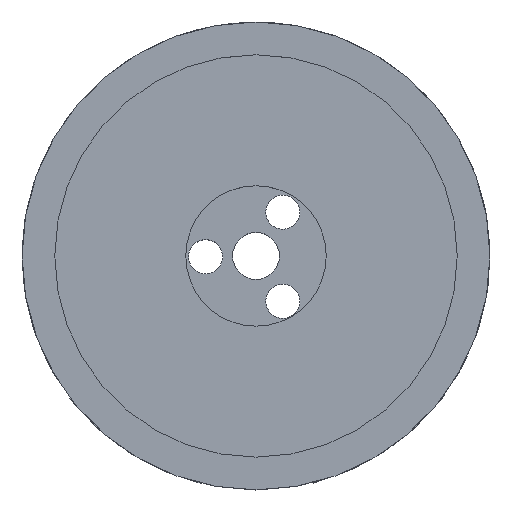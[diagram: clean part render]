
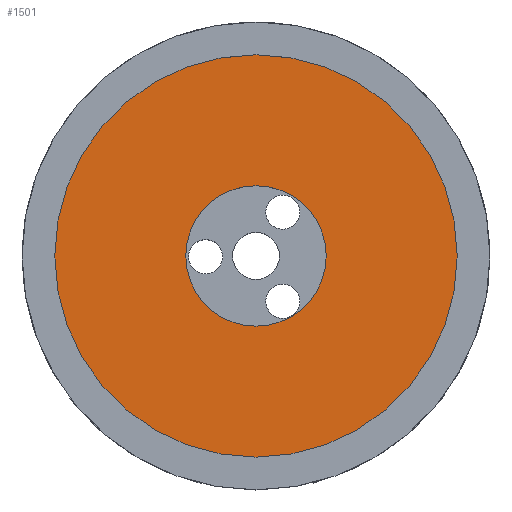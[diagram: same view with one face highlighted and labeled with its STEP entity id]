
A CAD part, top view. The second image highlights one B-rep face of the part: STEP entity #1501.
In plain terms, the highlighted planar face has unit normal (0, 0, 1).
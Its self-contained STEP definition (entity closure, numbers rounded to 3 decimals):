
#32=FACE_BOUND('',#187,.T.);
#54=PLANE('',#1621);
#102=FACE_OUTER_BOUND('',#186,.T.);
#186=EDGE_LOOP('',(#1025));
#187=EDGE_LOOP('',(#1026));
#545=CIRCLE('',#1620,43.);
#546=CIRCLE('',#1622,15.);
#644=VERTEX_POINT('',#2325);
#645=VERTEX_POINT('',#2329);
#796=EDGE_CURVE('',#644,#644,#545,.T.);
#797=EDGE_CURVE('',#645,#645,#546,.T.);
#1025=ORIENTED_EDGE('',*,*,#796,.F.);
#1026=ORIENTED_EDGE('',*,*,#797,.F.);
#1501=ADVANCED_FACE('',(#102,#32),#54,.T.);
#1620=AXIS2_PLACEMENT_3D('',#2327,#1828,#1829);
#1621=AXIS2_PLACEMENT_3D('',#2328,#1830,#1831);
#1622=AXIS2_PLACEMENT_3D('',#2330,#1832,#1833);
#1828=DIRECTION('center_axis',(0.,0.,-1.));
#1829=DIRECTION('ref_axis',(-1.,0.,0.));
#1830=DIRECTION('center_axis',(0.,0.,1.));
#1831=DIRECTION('ref_axis',(-1.,0.,0.));
#1832=DIRECTION('center_axis',(0.,0.,1.));
#1833=DIRECTION('ref_axis',(-1.,0.,0.));
#2325=CARTESIAN_POINT('',(46.425,1.48,38.298));
#2327=CARTESIAN_POINT('Origin',(3.425,1.48,38.298));
#2328=CARTESIAN_POINT('Origin',(3.425,1.48,38.298));
#2329=CARTESIAN_POINT('',(18.425,1.48,38.298));
#2330=CARTESIAN_POINT('Origin',(3.425,1.48,38.298));
